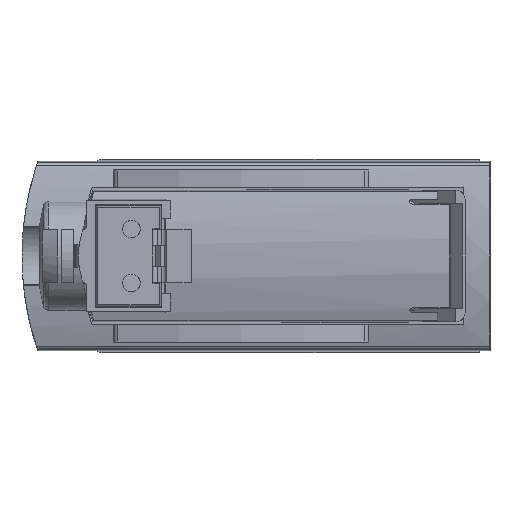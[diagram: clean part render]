
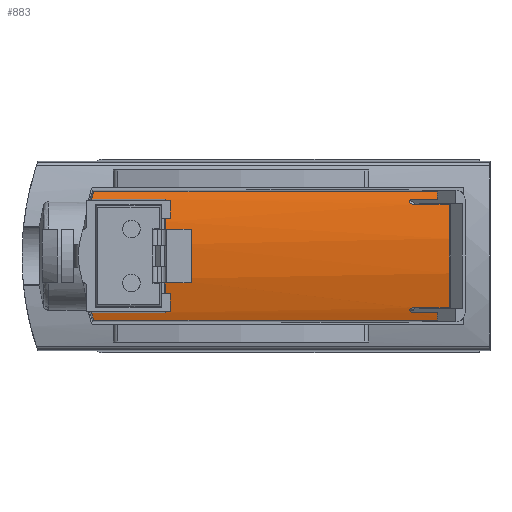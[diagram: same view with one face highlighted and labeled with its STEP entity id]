
A CAD part, left-side view. The second image highlights one B-rep face of the part: STEP entity #883.
In plain terms, the highlighted cylindrical face has radius 15 mm (diameter 30 mm), a partial arc.
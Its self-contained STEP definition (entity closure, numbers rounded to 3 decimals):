
#883 = ADVANCED_FACE( '', ( #2143 ), #2144, .T. );
#2143 = FACE_OUTER_BOUND( '', #3814, .T. );
#2144 = CYLINDRICAL_SURFACE( '', #3815, 15. );
#3814 = EDGE_LOOP( '', ( #6235, #6236, #6237, #6238, #6239, #6240, #6241, #6242, #6243, #6244, #6245, #6246, #6247, #6248, #6249, #6250 ) );
#3815 = AXIS2_PLACEMENT_3D( '', #6251, #6252, #6253 );
#6235 = ORIENTED_EDGE( '', *, *, #10577, .F. );
#6236 = ORIENTED_EDGE( '', *, *, #10553, .T. );
#6237 = ORIENTED_EDGE( '', *, *, #10578, .T. );
#6238 = ORIENTED_EDGE( '', *, *, #10579, .T. );
#6239 = ORIENTED_EDGE( '', *, *, #10580, .T. );
#6240 = ORIENTED_EDGE( '', *, *, #10549, .T. );
#6241 = ORIENTED_EDGE( '', *, *, #10581, .T. );
#6242 = ORIENTED_EDGE( '', *, *, #10582, .T. );
#6243 = ORIENTED_EDGE( '', *, *, #10583, .F. );
#6244 = ORIENTED_EDGE( '', *, *, #10584, .F. );
#6245 = ORIENTED_EDGE( '', *, *, #10585, .F. );
#6246 = ORIENTED_EDGE( '', *, *, #10586, .F. );
#6247 = ORIENTED_EDGE( '', *, *, #10587, .F. );
#6248 = ORIENTED_EDGE( '', *, *, #10588, .F. );
#6249 = ORIENTED_EDGE( '', *, *, #10589, .F. );
#6250 = ORIENTED_EDGE( '', *, *, #10590, .F. );
#6251 = CARTESIAN_POINT( '', ( -15., 30., 0. ) );
#6252 = DIRECTION( '', ( 0., 1., 0. ) );
#6253 = DIRECTION( '', ( 0., 0., -1. ) );
#10549 = EDGE_CURVE( '', #12930, #12928, #12931, .T. );
#10553 = EDGE_CURVE( '', #12938, #12936, #12939, .T. );
#10577 = EDGE_CURVE( '', #12938, #12972, #12973, .T. );
#10578 = EDGE_CURVE( '', #12936, #12974, #12975, .T. );
#10579 = EDGE_CURVE( '', #12974, #12976, #12977, .F. );
#10580 = EDGE_CURVE( '', #12976, #12930, #12978, .F. );
#10581 = EDGE_CURVE( '', #12928, #12979, #12980, .T. );
#10582 = EDGE_CURVE( '', #12979, #12981, #12982, .F. );
#10583 = EDGE_CURVE( '', #12983, #12981, #12984, .T. );
#10584 = EDGE_CURVE( '', #12985, #12983, #12986, .T. );
#10585 = EDGE_CURVE( '', #12987, #12985, #12988, .F. );
#10586 = EDGE_CURVE( '', #12989, #12987, #12990, .F. );
#10587 = EDGE_CURVE( '', #12991, #12989, #12992, .T. );
#10588 = EDGE_CURVE( '', #12993, #12991, #12994, .T. );
#10589 = EDGE_CURVE( '', #12995, #12993, #12996, .F. );
#10590 = EDGE_CURVE( '', #12972, #12995, #12997, .F. );
#12928 = VERTEX_POINT( '', #16362 );
#12930 = VERTEX_POINT( '', #16367 );
#12931 = B_SPLINE_CURVE_WITH_KNOTS( '', 3, ( #16368, #16369, #16370, #16371 ), .UNSPECIFIED., .F., .F., ( 4, 4 ), ( 0.009, 0.01 ), .UNSPECIFIED. );
#12936 = VERTEX_POINT( '', #16379 );
#12938 = VERTEX_POINT( '', #16384 );
#12939 = B_SPLINE_CURVE_WITH_KNOTS( '', 3, ( #16385, #16386, #16387, #16388 ), .UNSPECIFIED., .F., .F., ( 4, 4 ), ( 0., 0.001 ), .UNSPECIFIED. );
#12972 = VERTEX_POINT( '', #16434 );
#12973 = LINE( '', #16435, #16436 );
#12974 = VERTEX_POINT( '', #16437 );
#12975 = LINE( '', #16438, #16439 );
#12976 = VERTEX_POINT( '', #16440 );
#12977 = ELLIPSE( '', #16441, 15.002, 15. );
#12978 = LINE( '', #16442, #16443 );
#12979 = VERTEX_POINT( '', #16444 );
#12980 = LINE( '', #16445, #16446 );
#12981 = VERTEX_POINT( '', #16447 );
#12982 = ELLIPSE( '', #16448, 15.002, 15. );
#12983 = VERTEX_POINT( '', #16449 );
#12984 = LINE( '', #16450, #16451 );
#12985 = VERTEX_POINT( '', #16452 );
#12986 = B_SPLINE_CURVE_WITH_KNOTS( '', 3, ( #16453, #16454, #16455, #16456, #16457, #16458, #16459, #16460, #16461, #16462 ), .UNSPECIFIED., .F., .F., ( 4, 2, 2, 2, 4 ), ( 0., 0., 0., 0., 0.001 ), .UNSPECIFIED. );
#12987 = VERTEX_POINT( '', #16463 );
#12988 = LINE( '', #16464, #16465 );
#12989 = VERTEX_POINT( '', #16466 );
#12990 = ELLIPSE( '', #16467, 15.009, 15. );
#12991 = VERTEX_POINT( '', #16468 );
#12992 = LINE( '', #16469, #16470 );
#12993 = VERTEX_POINT( '', #16471 );
#12994 = B_SPLINE_CURVE_WITH_KNOTS( '', 3, ( #16472, #16473, #16474, #16475, #16476, #16477, #16478, #16479, #16480, #16481 ), .UNSPECIFIED., .F., .F., ( 4, 2, 2, 2, 4 ), ( 0., 0., 0., 0., 0.001 ), .UNSPECIFIED. );
#12995 = VERTEX_POINT( '', #16482 );
#12996 = LINE( '', #16483, #16484 );
#12997 = ELLIPSE( '', #16485, 15.002, 15. );
#16362 = CARTESIAN_POINT( '', ( -0.783, 26.406, 4.784 ) );
#16367 = CARTESIAN_POINT( '', ( -0.603, 26.584, 4.21 ) );
#16368 = CARTESIAN_POINT( '', ( -0.603, 26.584, 4.21 ) );
#16369 = CARTESIAN_POINT( '', ( -0.659, 26.528, 4.403 ) );
#16370 = CARTESIAN_POINT( '', ( -0.72, 26.469, 4.595 ) );
#16371 = CARTESIAN_POINT( '', ( -0.783, 26.406, 4.784 ) );
#16379 = CARTESIAN_POINT( '', ( -0.603, 26.584, -4.21 ) );
#16384 = CARTESIAN_POINT( '', ( -0.783, 26.406, -4.784 ) );
#16385 = CARTESIAN_POINT( '', ( -0.783, 26.406, -4.784 ) );
#16386 = CARTESIAN_POINT( '', ( -0.719, 26.469, -4.594 ) );
#16387 = CARTESIAN_POINT( '', ( -0.659, 26.528, -4.403 ) );
#16388 = CARTESIAN_POINT( '', ( -0.603, 26.584, -4.21 ) );
#16434 = CARTESIAN_POINT( '', ( -0.783, 0.864, -4.784 ) );
#16435 = CARTESIAN_POINT( '', ( -0.783, 30., -4.784 ) );
#16436 = VECTOR( '', #19616, 1000. );
#16437 = CARTESIAN_POINT( '', ( -0.603, 21.096, -4.21 ) );
#16438 = CARTESIAN_POINT( '', ( -0.603, 30., -4.21 ) );
#16439 = VECTOR( '', #19617, 1000. );
#16440 = CARTESIAN_POINT( '', ( -0.603, 21.096, 4.21 ) );
#16441 = AXIS2_PLACEMENT_3D( '', #19618, #19619, #19620 );
#16442 = CARTESIAN_POINT( '', ( -0.603, 30., 4.21 ) );
#16443 = VECTOR( '', #19621, 1000. );
#16444 = CARTESIAN_POINT( '', ( -0.783, 0.864, 4.784 ) );
#16445 = CARTESIAN_POINT( '', ( -0.783, 30., 4.784 ) );
#16446 = VECTOR( '', #19622, 1000. );
#16447 = CARTESIAN_POINT( '', ( -0.609, 0.861, 4.23 ) );
#16448 = AXIS2_PLACEMENT_3D( '', #19623, #19624, #19625 );
#16449 = CARTESIAN_POINT( '', ( -0.609, 2.722, 4.23 ) );
#16450 = CARTESIAN_POINT( '', ( -0.609, 30., 4.23 ) );
#16451 = VECTOR( '', #19626, 1000. );
#16452 = CARTESIAN_POINT( '', ( -0.503, 2.722, 3.851 ) );
#16453 = CARTESIAN_POINT( '', ( -0.503, 2.722, 3.851 ) );
#16454 = CARTESIAN_POINT( '', ( -0.503, 2.773, 3.851 ) );
#16455 = CARTESIAN_POINT( '', ( -0.508, 2.823, 3.873 ) );
#16456 = CARTESIAN_POINT( '', ( -0.528, 2.892, 3.943 ) );
#16457 = CARTESIAN_POINT( '', ( -0.541, 2.912, 3.992 ) );
#16458 = CARTESIAN_POINT( '', ( -0.568, 2.911, 4.089 ) );
#16459 = CARTESIAN_POINT( '', ( -0.582, 2.892, 4.138 ) );
#16460 = CARTESIAN_POINT( '', ( -0.603, 2.822, 4.209 ) );
#16461 = CARTESIAN_POINT( '', ( -0.609, 2.773, 4.23 ) );
#16462 = CARTESIAN_POINT( '', ( -0.609, 2.722, 4.23 ) );
#16463 = CARTESIAN_POINT( '', ( -0.503, -0.018, 3.851 ) );
#16464 = CARTESIAN_POINT( '', ( -0.503, 30., 3.851 ) );
#16465 = VECTOR( '', #19627, 1000. );
#16466 = CARTESIAN_POINT( '', ( -0.503, -0.018, -3.851 ) );
#16467 = AXIS2_PLACEMENT_3D( '', #19628, #19629, #19630 );
#16468 = CARTESIAN_POINT( '', ( -0.503, 2.722, -3.851 ) );
#16469 = CARTESIAN_POINT( '', ( -0.503, 30., -3.851 ) );
#16470 = VECTOR( '', #19631, 1000. );
#16471 = CARTESIAN_POINT( '', ( -0.609, 2.722, -4.23 ) );
#16472 = CARTESIAN_POINT( '', ( -0.609, 2.722, -4.23 ) );
#16473 = CARTESIAN_POINT( '', ( -0.609, 2.773, -4.23 ) );
#16474 = CARTESIAN_POINT( '', ( -0.602, 2.823, -4.208 ) );
#16475 = CARTESIAN_POINT( '', ( -0.582, 2.892, -4.138 ) );
#16476 = CARTESIAN_POINT( '', ( -0.568, 2.911, -4.089 ) );
#16477 = CARTESIAN_POINT( '', ( -0.541, 2.912, -3.992 ) );
#16478 = CARTESIAN_POINT( '', ( -0.528, 2.892, -3.944 ) );
#16479 = CARTESIAN_POINT( '', ( -0.508, 2.822, -3.872 ) );
#16480 = CARTESIAN_POINT( '', ( -0.503, 2.773, -3.851 ) );
#16481 = CARTESIAN_POINT( '', ( -0.503, 2.722, -3.851 ) );
#16482 = CARTESIAN_POINT( '', ( -0.609, 0.861, -4.23 ) );
#16483 = CARTESIAN_POINT( '', ( -0.609, 30., -4.23 ) );
#16484 = VECTOR( '', #19632, 1000. );
#16485 = AXIS2_PLACEMENT_3D( '', #19633, #19634, #19635 );
#19616 = DIRECTION( '', ( 0., -1., 0. ) );
#19617 = DIRECTION( '', ( 0., -1., 0. ) );
#19618 = CARTESIAN_POINT( '', ( -15., 20.845, 0. ) );
#19619 = DIRECTION( '', ( -0.017, 1., 0. ) );
#19620 = DIRECTION( '', ( -1., -0.017, 0. ) );
#19621 = DIRECTION( '', ( 0., -1., 0. ) );
#19622 = DIRECTION( '', ( 0., -1., 0. ) );
#19623 = CARTESIAN_POINT( '', ( -15., 1.112, 0. ) );
#19624 = DIRECTION( '', ( -0.017, -1., 0. ) );
#19625 = DIRECTION( '', ( 1., -0.017, 0. ) );
#19626 = DIRECTION( '', ( 0., -1., 0. ) );
#19627 = DIRECTION( '', ( 0., -1., 0. ) );
#19628 = CARTESIAN_POINT( '', ( -15., -0.524, 0. ) );
#19629 = DIRECTION( '', ( -0.035, 0.999, 0. ) );
#19630 = DIRECTION( '', ( -0.999, -0.035, 0. ) );
#19631 = DIRECTION( '', ( 0., -1., 0. ) );
#19632 = DIRECTION( '', ( 0., -1., 0. ) );
#19633 = CARTESIAN_POINT( '', ( -15., 1.112, 0. ) );
#19634 = DIRECTION( '', ( 0.017, 1., 0. ) );
#19635 = DIRECTION( '', ( 1., -0.017, 0. ) );
